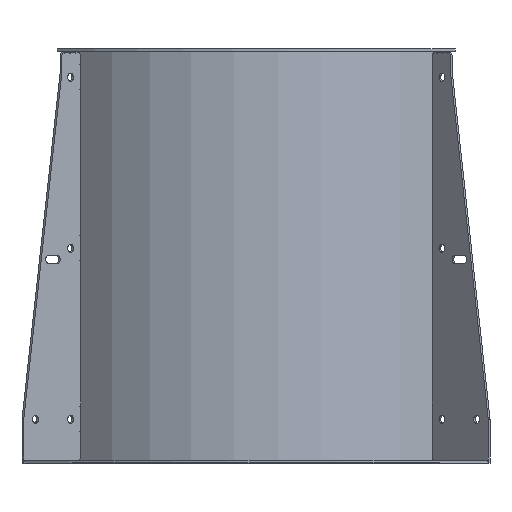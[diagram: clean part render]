
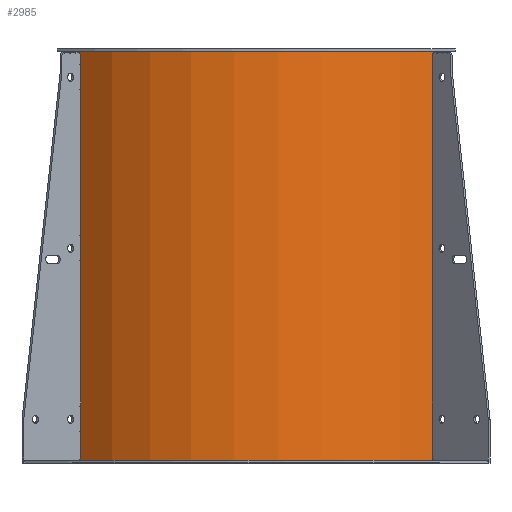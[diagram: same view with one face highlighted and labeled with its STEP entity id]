
A CAD part, top view. The second image highlights one B-rep face of the part: STEP entity #2985.
In plain terms, the highlighted cylindrical face has radius 303 mm (diameter 606 mm), a partial arc.
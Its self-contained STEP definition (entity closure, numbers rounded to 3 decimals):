
#23 = AXIS2_PLACEMENT_3D ( 'NONE', #783, #1788, #292 ) ;
#58 = ORIENTED_EDGE ( 'NONE', *, *, #2905, .T. ) ;
#178 = EDGE_CURVE ( 'NONE', #1527, #1407, #2040, .T. ) ;
#252 = EDGE_LOOP ( 'NONE', ( #1349, #2560, #58, #2608 ) ) ;
#292 = DIRECTION ( 'NONE',  ( 0., 0., -1. ) ) ;
#455 = CARTESIAN_POINT ( 'NONE',  ( 426.385, 0., 2.121 ) ) ;
#509 = CARTESIAN_POINT ( 'NONE',  ( 212.132, 0., -212.132 ) ) ;
#783 = CARTESIAN_POINT ( 'NONE',  ( 212.132, 938.035, -212.132 ) ) ;
#866 = DIRECTION ( 'NONE',  ( 0., -1., 0. ) ) ;
#995 = DIRECTION ( 'NONE',  ( 0., -1., 0. ) ) ;
#1142 = EDGE_CURVE ( 'NONE', #2461, #1527, #1443, .T. ) ;
#1328 = CARTESIAN_POINT ( 'NONE',  ( 426.385, 498.5, 2.121 ) ) ;
#1349 = ORIENTED_EDGE ( 'NONE', *, *, #1142, .T. ) ;
#1404 = CARTESIAN_POINT ( 'NONE',  ( 212.132, 498.5, -212.132 ) ) ;
#1407 = VERTEX_POINT ( 'NONE', #2011 ) ;
#1409 = CARTESIAN_POINT ( 'NONE',  ( 426.385, 938.035, 2.121 ) ) ;
#1443 = CIRCLE ( 'NONE', #3091, 303. ) ;
#1521 = DIRECTION ( 'NONE',  ( 0., 1., 0. ) ) ;
#1527 = VERTEX_POINT ( 'NONE', #2812 ) ;
#1611 = DIRECTION ( 'NONE',  ( 0., 0., -1. ) ) ;
#1788 = DIRECTION ( 'NONE',  ( 0., -1., 0. ) ) ;
#1907 = VERTEX_POINT ( 'NONE', #455 ) ;
#2011 = CARTESIAN_POINT ( 'NONE',  ( -2.121, 0., 2.121 ) ) ;
#2040 = LINE ( 'NONE', #2506, #3040 ) ;
#2257 = EDGE_CURVE ( 'NONE', #2461, #1907, #2870, .T. ) ;
#2461 = VERTEX_POINT ( 'NONE', #1328 ) ;
#2506 = CARTESIAN_POINT ( 'NONE',  ( -2.121, 938.035, 2.121 ) ) ;
#2511 = FACE_OUTER_BOUND ( 'NONE', #252, .T. ) ;
#2560 = ORIENTED_EDGE ( 'NONE', *, *, #178, .T. ) ;
#2608 = ORIENTED_EDGE ( 'NONE', *, *, #2257, .F. ) ;
#2692 = DIRECTION ( 'NONE',  ( 0., -1., 0. ) ) ;
#2755 = CYLINDRICAL_SURFACE ( 'NONE', #23, 303. ) ;
#2812 = CARTESIAN_POINT ( 'NONE',  ( -2.121, 498.5, 2.121 ) ) ;
#2870 = LINE ( 'NONE', #1409, #2897 ) ;
#2897 = VECTOR ( 'NONE', #2692, 1000. ) ;
#2905 = EDGE_CURVE ( 'NONE', #1407, #1907, #2949, .T. ) ;
#2932 = DIRECTION ( 'NONE',  ( 1., 0., 0. ) ) ;
#2949 = CIRCLE ( 'NONE', #2998, 303. ) ;
#2985 = ADVANCED_FACE ( 'NONE', ( #2511 ), #2755, .T. ) ;
#2998 = AXIS2_PLACEMENT_3D ( 'NONE', #509, #1521, #2932 ) ;
#3040 = VECTOR ( 'NONE', #995, 1000. ) ;
#3091 = AXIS2_PLACEMENT_3D ( 'NONE', #1404, #866, #1611 ) ;
